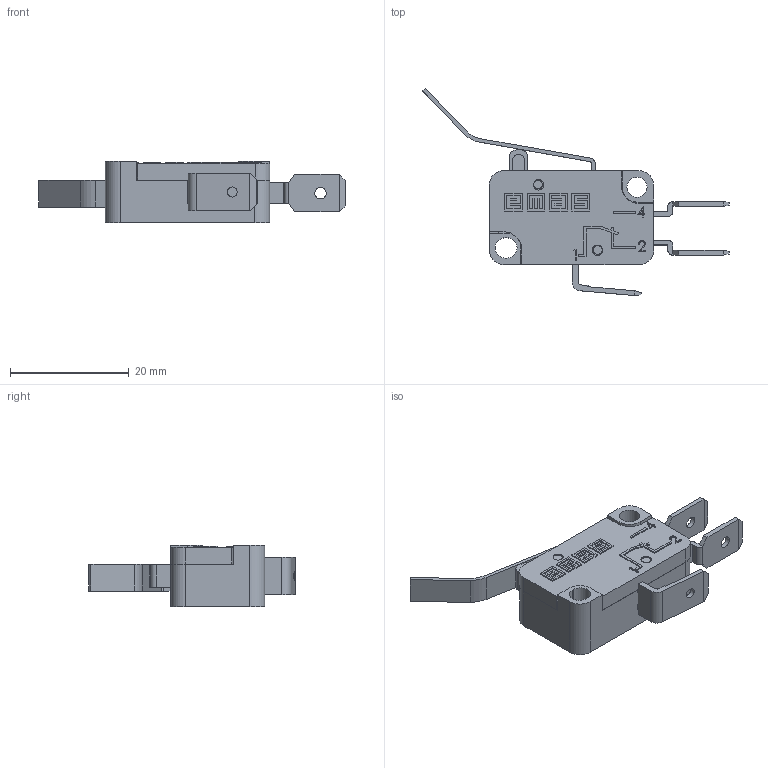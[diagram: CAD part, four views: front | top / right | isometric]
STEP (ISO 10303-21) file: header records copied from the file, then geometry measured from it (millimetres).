
FILE_DESCRIPTION((''),'2; 1');
FILE_NAME('','2026-03-27T16:18:16',(''),(''),'CST STEP Exporter V1.0','Unknown','');
FILE_SCHEMA(('CONFIG_CONTROL_DESIGN'));
Length unit declared in the file: metre
Assembly tree (8 placements, depth 2):
  (unnamed)
    (unnamed)
    (unnamed)
    (unnamed)
    (unnamed)
    (unnamed)
    (unnamed)
    (unnamed)
    (unnamed)
Bounding box: 51.5 x 34.79 x 10.4 mm (x, y, z)
Surface area: 7320 mm2 (no closed solid volume)
Topology: 0 solids, 8 shells, 279 faces, 1037 edges, 773 vertices
Faces by surface type: plane 235, cylinder 38, extrusion 6
Full cylindrical faces by diameter (mm): 1.5 x2, 1.7 x1, 1.75 x2, 1.95 x2, 3.4 x1
Entity records: 13336 total; most frequent: CARTESIAN_POINT 2255, DIRECTION 1704, ORIENTED_EDGE 1698, EDGE_CURVE 1026, VECTOR 854, LINE 848, VERTEX_POINT 770, AXIS2_PLACEMENT_3D 425
